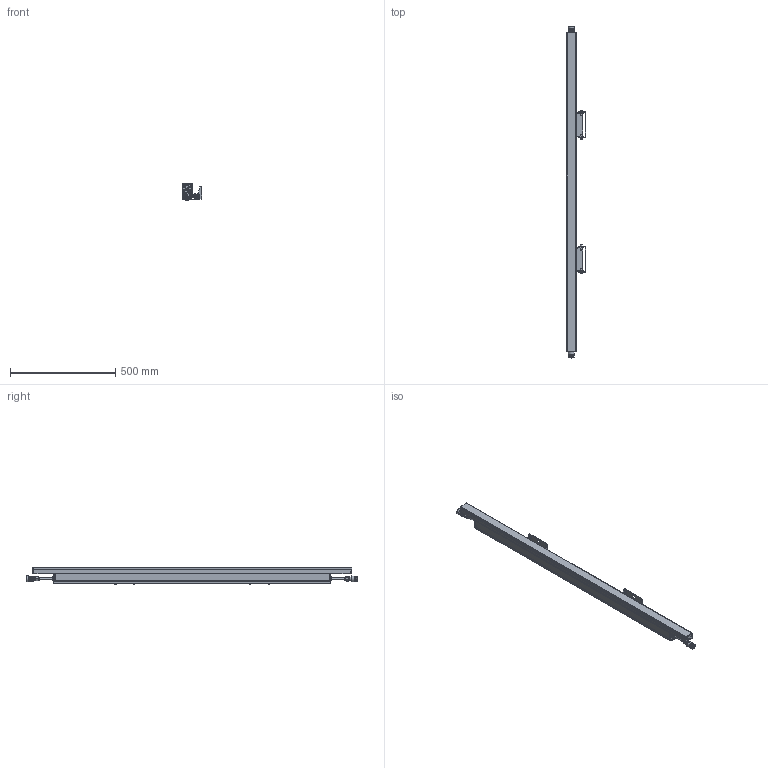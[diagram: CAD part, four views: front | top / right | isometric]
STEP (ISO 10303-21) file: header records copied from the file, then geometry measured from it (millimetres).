
FILE_DESCRIPTION(/* description */ ('Unknown'),/* implementation_level */ '2;1');
FILE_NAME(/* name */ 'ARCHILINE_W 59.8',/* time_stamp */ '2023-02-07T11:10:20+01:00',/* author */ ('Unknown'),/* organization */ ('Unknown'),/* preprocessor_version */ 'ST-DEVELOPER v18.1',/* originating_system */ 'Solid Edge',/* authorisation */ 'Unknown');
FILE_SCHEMA (('AUTOMOTIVE_DESIGN {1 0 10303 214 3 1 1}'));
Products named in the file (1): arcliline W 1500
Bounding box: 90.86 x 1580.45 x 81.72 mm (x, y, z)
Volume: 1324591.3 mm3; surface area: 1018356.6 mm2
Topology: 3 solids, 3 shells, 6228 faces, 16602 edges, 10062 vertices
Faces by surface type: plane 2370, cylinder 2321, bspline 706, sphere 374, torus 349, cone 108
Full cylindrical faces by diameter (mm): 1.898 x20, 1.998 x3, 2 x3, 2.498 x30, 2.897 x24, 2.997 x12, 3.239 x20, 3.497 x8, 3.996 x4, 4.5 x1, 4.912 x4, 5.183 x1, 5.495 x2, 5.994 x6, 6.094 x4, 6.494 x12, 6.793 x12, 6.993 x8, 7.393 x4, 7.992 x2, 8.122 x1, 8.13 x1, 8.591 x4, 8.991 x4, 9.99 x4, 11.988 x5, 12.987 x4, 13.986 x2, 16.484 x1, 16.5 x1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
Entity records: 817153 total; most frequent: CARTESIAN_POINT 628553, ORIENTED_EDGE 31300, DIRECTION 29105, EDGE_CURVE 15650, AXIS2_PLACEMENT_3D 10827, VERTEX_POINT 9729, LINE 7451, VECTOR 7451
